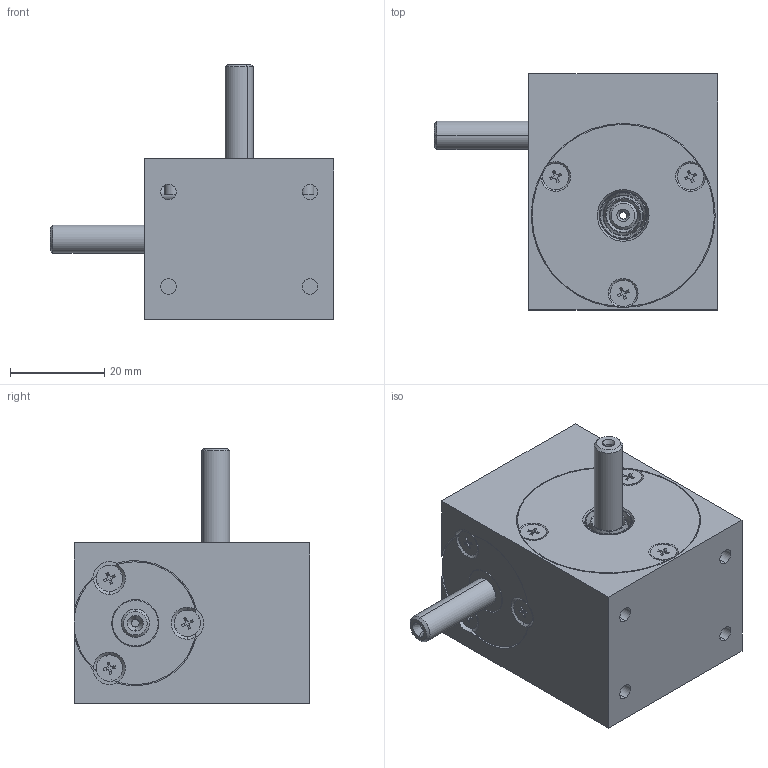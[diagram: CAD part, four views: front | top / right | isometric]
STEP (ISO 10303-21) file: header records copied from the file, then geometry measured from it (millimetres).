
FILE_DESCRIPTION (( 'STEP AP214' ), '1' );
FILE_NAME ('S 345-Sologetriebe.STEP', '2010-10-13T07:21:26', ( ' ' ), ( '' ), 'SwSTEP 2.0', 'SolidWorks 2010', '' );
FILE_SCHEMA (( 'AUTOMOTIVE_DESIGN' ));
Length unit declared in the file: millimetre
Products named in the file (1): S 345-Sologetriebe
Bounding box: 60 x 50 x 54 mm (x, y, z)
Surface area: 13783.2 mm2 (no closed solid volume)
Topology: 0 solids, 16 shells, 236 faces, 621 edges, 396 vertices
Faces by surface type: plane 95, cone 76, cylinder 53, torus 12
Entity records: 9893 total; most frequent: CARTESIAN_POINT 1352, DIRECTION 1335, ORIENTED_EDGE 1094, EDGE_CURVE 621, AXIS2_PLACEMENT_3D 487, VERTEX_POINT 396, LINE 361, VECTOR 361
